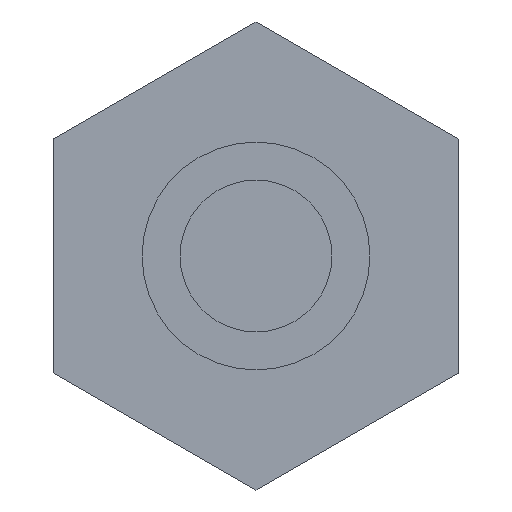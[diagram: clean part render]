
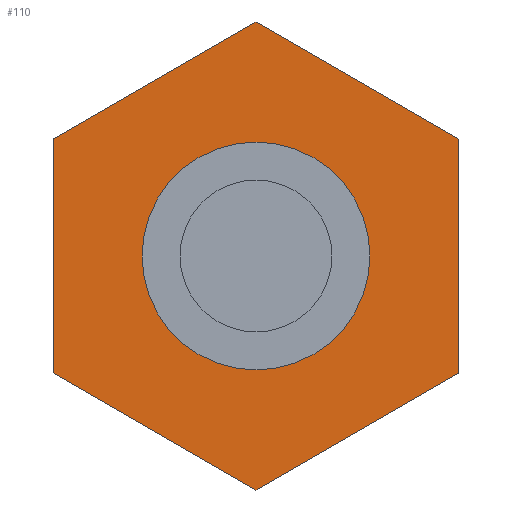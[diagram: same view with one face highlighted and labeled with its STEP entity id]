
A CAD part, front view. The second image highlights one B-rep face of the part: STEP entity #110.
In plain terms, the highlighted planar face has unit normal (0, -1, 0).
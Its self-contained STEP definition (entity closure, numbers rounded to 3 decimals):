
#45 = LINE ( 'NONE', #98, #3461 ) ;
#98 = CARTESIAN_POINT ( 'NONE',  ( 0., 0., 4.619 ) ) ;
#110 = ADVANCED_FACE ( 'NONE', ( #670, #4777 ), #2693, .F. ) ;
#195 = DIRECTION ( 'NONE',  ( 0., 0., 1. ) ) ;
#403 = ORIENTED_EDGE ( 'NONE', *, *, #4789, .F. ) ;
#418 = ORIENTED_EDGE ( 'NONE', *, *, #4251, .F. ) ;
#511 = DIRECTION ( 'NONE',  ( 0.866, 0., 0.5 ) ) ;
#534 = ORIENTED_EDGE ( 'NONE', *, *, #3550, .F. ) ;
#564 = LINE ( 'NONE', #957, #917 ) ;
#670 = FACE_BOUND ( 'NONE', #4857, .T. ) ;
#917 = VECTOR ( 'NONE', #511, 1000. ) ;
#948 = VERTEX_POINT ( 'NONE', #2044 ) ;
#957 = CARTESIAN_POINT ( 'NONE',  ( -4., 0., 2.309 ) ) ;
#988 = LINE ( 'NONE', #1097, #4126 ) ;
#1021 = DIRECTION ( 'NONE',  ( -0.866, 0., -0.5 ) ) ;
#1041 = CARTESIAN_POINT ( 'NONE',  ( 4., 0., -2.309 ) ) ;
#1097 = CARTESIAN_POINT ( 'NONE',  ( -4., 0., -2.309 ) ) ;
#1283 = CARTESIAN_POINT ( 'NONE',  ( 0., 0., -4.619 ) ) ;
#1303 = VERTEX_POINT ( 'NONE', #4085 ) ;
#1407 = DIRECTION ( 'NONE',  ( 0., -1., 0. ) ) ;
#1451 = DIRECTION ( 'NONE',  ( 0., 1., 0. ) ) ;
#1622 = CARTESIAN_POINT ( 'NONE',  ( 0., 0., 4.619 ) ) ;
#1695 = CARTESIAN_POINT ( 'NONE',  ( 4., 0., 2.309 ) ) ;
#1706 = CARTESIAN_POINT ( 'NONE',  ( 2., 0., 0. ) ) ;
#1728 = DIRECTION ( 'NONE',  ( -0.866, 0., 0.5 ) ) ;
#1762 = EDGE_CURVE ( 'NONE', #3478, #948, #45, .T. ) ;
#1909 = CARTESIAN_POINT ( 'NONE',  ( 4., 0., -2.309 ) ) ;
#2044 = CARTESIAN_POINT ( 'NONE',  ( 4., 0., 2.309 ) ) ;
#2079 = CARTESIAN_POINT ( 'NONE',  ( -4., 0., 2.309 ) ) ;
#2115 = LINE ( 'NONE', #2142, #3140 ) ;
#2142 = CARTESIAN_POINT ( 'NONE',  ( 0., 0., -4.619 ) ) ;
#2186 = AXIS2_PLACEMENT_3D ( 'NONE', #3463, #1407, #5157 ) ;
#2410 = VERTEX_POINT ( 'NONE', #1706 ) ;
#2536 = ORIENTED_EDGE ( 'NONE', *, *, #3089, .F. ) ;
#2693 = PLANE ( 'NONE',  #4526 ) ;
#2975 = VECTOR ( 'NONE', #1021, 1000. ) ;
#3074 = VERTEX_POINT ( 'NONE', #1041 ) ;
#3089 = EDGE_CURVE ( 'NONE', #2410, #2410, #3403, .T. ) ;
#3115 = LINE ( 'NONE', #1909, #2975 ) ;
#3140 = VECTOR ( 'NONE', #1728, 1000. ) ;
#3166 = EDGE_CURVE ( 'NONE', #1303, #5444, #988, .T. ) ;
#3365 = DIRECTION ( 'NONE',  ( 0., 0., -1. ) ) ;
#3403 = CIRCLE ( 'NONE', #2186, 2. ) ;
#3411 = ORIENTED_EDGE ( 'NONE', *, *, #4946, .F. ) ;
#3461 = VECTOR ( 'NONE', #3483, 1000. ) ;
#3463 = CARTESIAN_POINT ( 'NONE',  ( 0., 0., 0. ) ) ;
#3478 = VERTEX_POINT ( 'NONE', #1622 ) ;
#3483 = DIRECTION ( 'NONE',  ( 0.866, 0., -0.5 ) ) ;
#3550 = EDGE_CURVE ( 'NONE', #5444, #3478, #564, .T. ) ;
#4009 = ORIENTED_EDGE ( 'NONE', *, *, #3166, .F. ) ;
#4016 = CARTESIAN_POINT ( 'NONE',  ( 0., 0., 0. ) ) ;
#4083 = DIRECTION ( 'NONE',  ( 0., 0., 1. ) ) ;
#4085 = CARTESIAN_POINT ( 'NONE',  ( -4., 0., -2.309 ) ) ;
#4126 = VECTOR ( 'NONE', #4083, 1000. ) ;
#4202 = VERTEX_POINT ( 'NONE', #1283 ) ;
#4251 = EDGE_CURVE ( 'NONE', #948, #3074, #5412, .T. ) ;
#4526 = AXIS2_PLACEMENT_3D ( 'NONE', #4016, #1451, #195 ) ;
#4620 = EDGE_LOOP ( 'NONE', ( #3411, #418, #4977, #534, #4009, #403 ) ) ;
#4777 = FACE_OUTER_BOUND ( 'NONE', #4620, .T. ) ;
#4789 = EDGE_CURVE ( 'NONE', #4202, #1303, #2115, .T. ) ;
#4857 = EDGE_LOOP ( 'NONE', ( #2536 ) ) ;
#4946 = EDGE_CURVE ( 'NONE', #3074, #4202, #3115, .T. ) ;
#4977 = ORIENTED_EDGE ( 'NONE', *, *, #1762, .F. ) ;
#5054 = VECTOR ( 'NONE', #3365, 1000. ) ;
#5157 = DIRECTION ( 'NONE',  ( 0., 0., -1. ) ) ;
#5412 = LINE ( 'NONE', #1695, #5054 ) ;
#5444 = VERTEX_POINT ( 'NONE', #2079 ) ;
